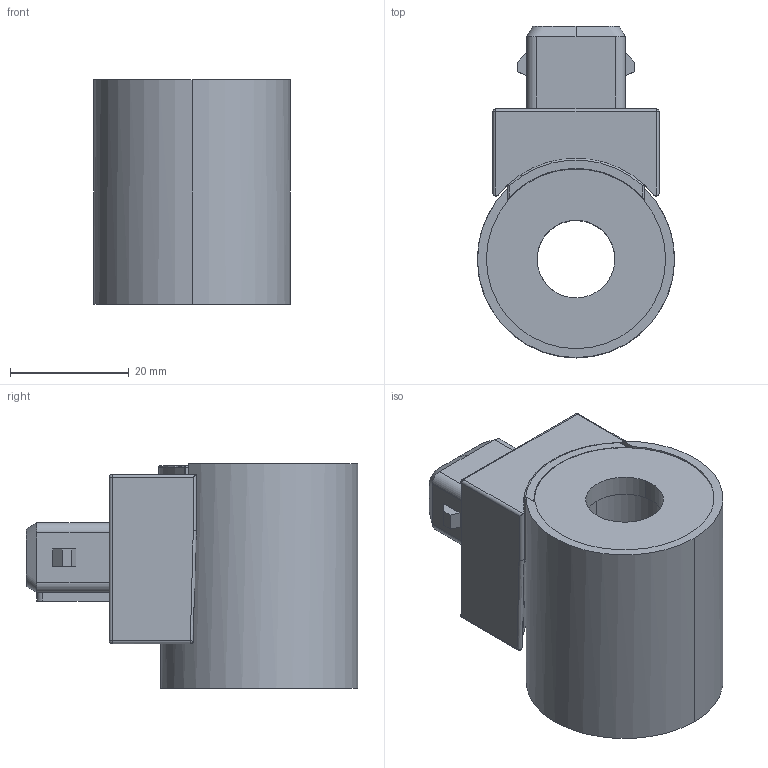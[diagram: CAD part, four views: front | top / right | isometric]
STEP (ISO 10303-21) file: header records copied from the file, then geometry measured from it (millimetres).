
FILE_DESCRIPTION (( 'STEP AP214' ), '1' );
FILE_NAME ('WJE34_13x38.STEP', '2026-07-14T11:27:00', ( '' ), ( '' ), 'SwSTEP 2.0', 'SolidWorks 2024', '' );
FILE_SCHEMA (( 'AUTOMOTIVE_DESIGN' ));
Length unit declared in the file: millimetre
Products named in the file (1): WJE34_13x38
Bounding box: 33.2 x 55.9 x 37.9 mm (x, y, z)
Volume: 37279.5 mm3; surface area: 19799.6 mm2
Topology: 4 solids, 4 shells, 206 faces, 533 edges, 333 vertices
Faces by surface type: plane 102, cylinder 75, cone 11, bspline 8, torus 6, sphere 4
Entity records: 7902 total; most frequent: CARTESIAN_POINT 3029, ORIENTED_EDGE 1050, DIRECTION 940, EDGE_CURVE 525, VERTEX_POINT 333, AXIS2_PLACEMENT_3D 316, VECTOR 308, LINE 308
